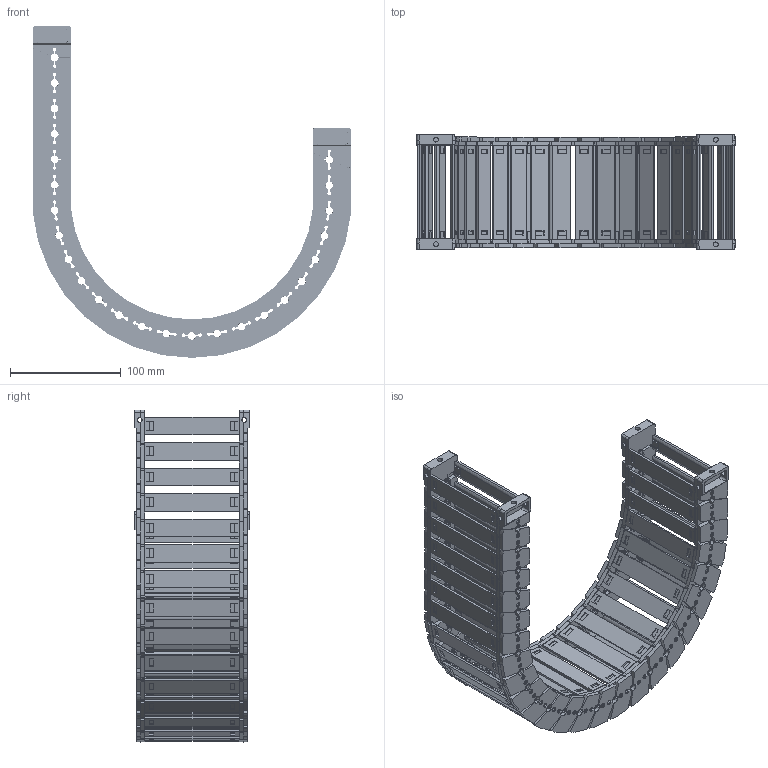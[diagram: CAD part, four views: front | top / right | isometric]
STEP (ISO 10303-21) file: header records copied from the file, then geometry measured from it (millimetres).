
FILE_DESCRIPTION((''),'2;1');
FILE_NAME('JY-28X85-R125_ASM','2025-07-23T13:31:32',('admin'),(''),'CREO PARAMETRIC BY PTC INC, 2021023','CREO PARAMETRIC BY PTC INC, 2021023','');
FILE_SCHEMA(('CONFIG_CONTROL_DESIGN','GEOMETRIC_VALIDATION_PROPERTIES_MIM'));
Length unit declared in the file: millimetre
Products named in the file (13): 28XL-L_1_1; 25-35XL-YP_1_1; 28XL-R_1_1; ASM0001_ASM_1_ASM_1_ASM; 28-LTT-A-L_1_1; 28-LTT-A-R_1_1; 28XL-LTT-A_ASM_1_ASM_1_ASM; 28-LTT-B-L_1_1; 28-LTT-B-R_1_1; 28XL-LTT-B_ASM_1_ASM_1_ASM; JY-28X77-R125_ASM_1_ASM_1_ASM; JY-28X77-R125_ASM_1_ASM; JY-28X85-R125_ASM
Assembly tree (40 placements, depth 5):
  JY-28X85-R125_ASM
    JY-28X77-R125_ASM_1_ASM
      JY-28X77-R125_ASM_1_ASM_1_ASM
        ASM0001_ASM_1_ASM_1_ASM  x24
          28XL-L_1_1
          25-35XL-YP_1_1
          28XL-R_1_1
        28XL-LTT-A_ASM_1_ASM_1_ASM
          28-LTT-A-L_1_1
          25-35XL-YP_1_1  x2
          28-LTT-A-R_1_1
        28XL-LTT-B_ASM_1_ASM_1_ASM
          28-LTT-B-L_1_1
          25-35XL-YP_1_1  x2
          28-LTT-B-R_1_1
Bounding box: 287.57 x 103.4 x 299.79 mm (x, y, z)
Volume: 478561.8 mm3; surface area: 344420.6 mm2
Topology: 104 solids, 104 shells, 6090 faces, 19204 edges, 13218 vertices
Faces by surface type: plane 3684, cone 1322, cylinder 976, bspline 108
Entity records: 28665 total; most frequent: CARTESIAN_POINT 6488, ORIENTED_EDGE 3506, DIRECTION 3074, PRESENTATION_STYLE_ASSIGNMENT 1778, STYLED_ITEM 1760, CURVE_STYLE 1753, EDGE_CURVE 1753, VERTEX_POINT 1193
